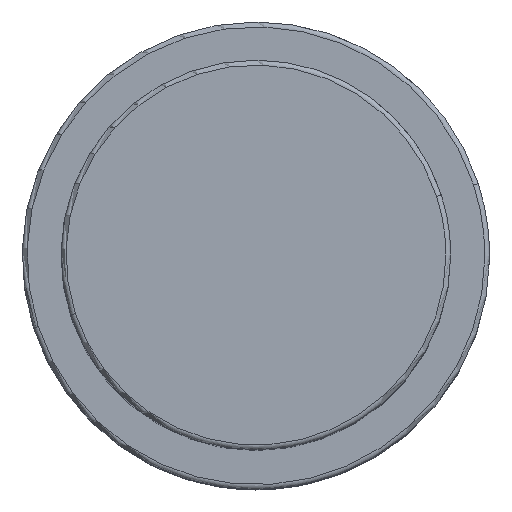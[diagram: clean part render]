
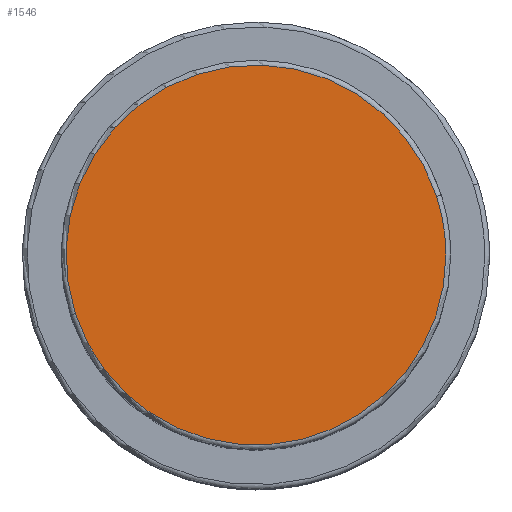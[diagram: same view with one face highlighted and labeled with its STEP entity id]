
A CAD part, top view. The second image highlights one B-rep face of the part: STEP entity #1546.
In plain terms, the highlighted planar face has unit normal (0, 0, 1).
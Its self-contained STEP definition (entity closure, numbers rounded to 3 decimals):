
#1479=CARTESIAN_POINT('',(18.546,6.026,58.5));
#1480=VERTEX_POINT('',#1479);
#1498=CARTESIAN_POINT('',(-18.546,-6.026,58.5));
#1499=VERTEX_POINT('',#1498);
#1507=CARTESIAN_POINT('',(0.0,0.0,58.5));
#1508=DIRECTION('',(0.0,0.0,1.0));
#1509=DIRECTION('',(1.0,0.0,0.0));
#1510=AXIS2_PLACEMENT_3D('',#1507,#1508,#1509);
#1511=CIRCLE('',#1510,19.5);
#1512=EDGE_CURVE('no 1769',#1480,#1499,#1511,.T.);
#1522=CARTESIAN_POINT('',(19.5,0.0,58.5));
#1523=VERTEX_POINT('',#1522);
#1524=CARTESIAN_POINT('',(0.0,0.0,58.5));
#1525=DIRECTION('',(0.0,0.0,1.0));
#1526=DIRECTION('',(1.0,0.0,0.0));
#1527=AXIS2_PLACEMENT_3D('',#1524,#1525,#1526);
#1528=CIRCLE('',#1527,19.5);
#1529=EDGE_CURVE('no 1778',#1523,#1480,#1528,.T.);
#1530=ORIENTED_EDGE('',*,*,#1529,.T.);
#1531=ORIENTED_EDGE('',*,*,#1512,.T.);
#1532=CARTESIAN_POINT('',(0.0,0.0,58.5));
#1533=DIRECTION('',(0.0,0.0,1.0));
#1534=DIRECTION('',(1.0,0.0,0.0));
#1535=AXIS2_PLACEMENT_3D('',#1532,#1533,#1534);
#1536=CIRCLE('',#1535,19.5);
#1537=EDGE_CURVE('no 1784',#1499,#1523,#1536,.T.);
#1538=ORIENTED_EDGE('',*,*,#1537,.T.);
#1539=EDGE_LOOP('',(#1530,#1531,#1538));
#1540=FACE_OUTER_BOUND('',#1539,.T.);
#1541=CARTESIAN_POINT('',(0.0,0.0,58.5));
#1542=DIRECTION('',(0.0,0.0,1.0));
#1543=DIRECTION('',(1.0,0.0,0.0));
#1544=AXIS2_PLACEMENT_3D('',#1541,#1542,#1543);
#1545=PLANE('',#1544);
#1546=ADVANCED_FACE('no 1771',(#1540),#1545,.T.);
